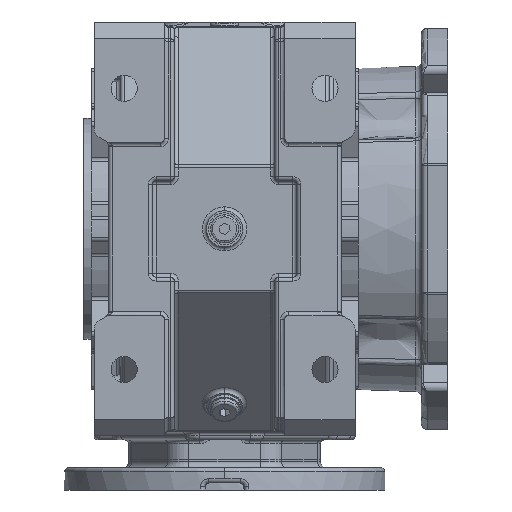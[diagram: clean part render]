
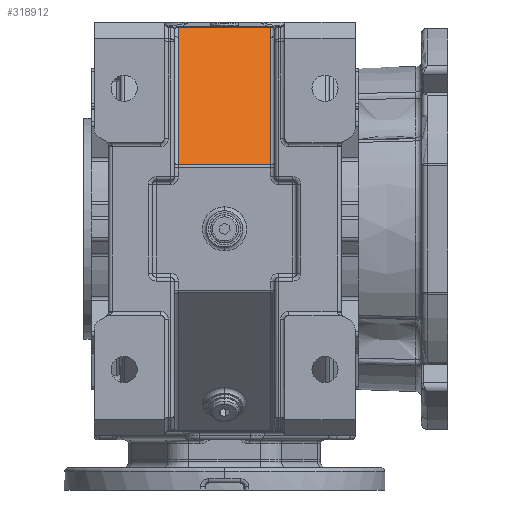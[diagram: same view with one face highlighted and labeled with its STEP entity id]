
A CAD part, front view. The second image highlights one B-rep face of the part: STEP entity #318912.
In plain terms, the highlighted planar face has unit normal (0, -0.707, 0.707).
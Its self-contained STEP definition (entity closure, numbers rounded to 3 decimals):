
#287715 = CARTESIAN_POINT ( 'NONE',  ( 23., -31.865, 95.414 ) ) ;
#287716 = CARTESIAN_POINT ( 'NONE',  ( 23., -95.414, 31.865 ) ) ;
#287717 = DIRECTION ( 'NONE',  ( 0., 0.707, 0.707 ) ) ;
#287718 = VECTOR ( 'NONE', #287717, 1000. ) ;
#287719 = CARTESIAN_POINT ( 'NONE',  ( 23., -31.279, 96. ) ) ;
#287720 = LINE ( 'NONE', #287719, #287718 ) ;
#287727 = DIRECTION ( 'NONE',  ( 0., 0.707, 0.707 ) ) ;
#287728 = DIRECTION ( 'NONE',  ( 0., 0.707, -0.707 ) ) ;
#287729 = CARTESIAN_POINT ( 'NONE',  ( 43., -31.279, 96. ) ) ;
#287730 = AXIS2_PLACEMENT_3D ( 'NONE', #287729, #287728, #287727 ) ;
#287731 = PLANE ( 'NONE',  #287730 ) ;
#287732 = FACE_OUTER_BOUND ( 'NONE', #318917, .T. ) ;
#287754 = DIRECTION ( 'NONE',  ( -1., 0., 0. ) ) ;
#287755 = VECTOR ( 'NONE', #287754, 1000. ) ;
#287756 = CARTESIAN_POINT ( 'NONE',  ( 43., -26.865, 100.414 ) ) ;
#287757 = LINE ( 'NONE', #287756, #287755 ) ;
#287765 = CARTESIAN_POINT ( 'NONE',  ( 23., -26.865, 100.414 ) ) ;
#287766 = DIRECTION ( 'NONE',  ( 0., 0.707, 0.707 ) ) ;
#287767 = VECTOR ( 'NONE', #287766, 1000. ) ;
#287768 = CARTESIAN_POINT ( 'NONE',  ( 23., -31.279, 96. ) ) ;
#287769 = LINE ( 'NONE', #287768, #287767 ) ;
#287782 = CARTESIAN_POINT ( 'NONE',  ( -23., -26.865, 100.414 ) ) ;
#287812 = DIRECTION ( 'NONE',  ( 1., 0., 0. ) ) ;
#287813 = VECTOR ( 'NONE', #287812, 1000. ) ;
#287814 = CARTESIAN_POINT ( 'NONE',  ( 43., -95.414, 31.865 ) ) ;
#287815 = LINE ( 'NONE', #287814, #287813 ) ;
#287824 = CARTESIAN_POINT ( 'NONE',  ( -23., -95.414, 31.865 ) ) ;
#287829 = DIRECTION ( 'NONE',  ( 0., -0.707, -0.707 ) ) ;
#287830 = VECTOR ( 'NONE', #287829, 1000. ) ;
#287831 = CARTESIAN_POINT ( 'NONE',  ( -23., -31.279, 96. ) ) ;
#287832 = LINE ( 'NONE', #287831, #287830 ) ;
#287833 = CARTESIAN_POINT ( 'NONE',  ( -23., -31.865, 95.414 ) ) ;
#287834 = DIRECTION ( 'NONE',  ( 0., -0.707, -0.707 ) ) ;
#287835 = VECTOR ( 'NONE', #287834, 1000. ) ;
#287836 = CARTESIAN_POINT ( 'NONE',  ( -23., -31.279, 96. ) ) ;
#287837 = LINE ( 'NONE', #287836, #287835 ) ;
#318912 = ADVANCED_FACE ( 'NONE', ( #287732 ), #287731, .F. ) ;
#318917 = EDGE_LOOP ( 'NONE', ( #318923, #318939, #318953, #319015, #319026, #319037 ) ) ;
#318923 = ORIENTED_EDGE ( 'NONE', *, *, #318927, .T. ) ;
#318927 = EDGE_CURVE ( 'NONE', #318931, #318933, #287720, .T. ) ;
#318931 = VERTEX_POINT ( 'NONE', #287716 ) ;
#318933 = VERTEX_POINT ( 'NONE', #287715 ) ;
#318939 = ORIENTED_EDGE ( 'NONE', *, *, #318944, .T. ) ;
#318944 = EDGE_CURVE ( 'NONE', #318933, #318946, #287769, .T. ) ;
#318946 = VERTEX_POINT ( 'NONE', #287765 ) ;
#318953 = ORIENTED_EDGE ( 'NONE', *, *, #318959, .T. ) ;
#318959 = EDGE_CURVE ( 'NONE', #318946, #319008, #287757, .T. ) ;
#319008 = VERTEX_POINT ( 'NONE', #287782 ) ;
#319015 = ORIENTED_EDGE ( 'NONE', *, *, #319020, .T. ) ;
#319020 = EDGE_CURVE ( 'NONE', #319008, #319022, #287837, .T. ) ;
#319022 = VERTEX_POINT ( 'NONE', #287833 ) ;
#319026 = ORIENTED_EDGE ( 'NONE', *, *, #319029, .T. ) ;
#319029 = EDGE_CURVE ( 'NONE', #319022, #319033, #287832, .T. ) ;
#319033 = VERTEX_POINT ( 'NONE', #287824 ) ;
#319037 = ORIENTED_EDGE ( 'NONE', *, *, #319044, .T. ) ;
#319044 = EDGE_CURVE ( 'NONE', #319033, #318931, #287815, .T. ) ;
